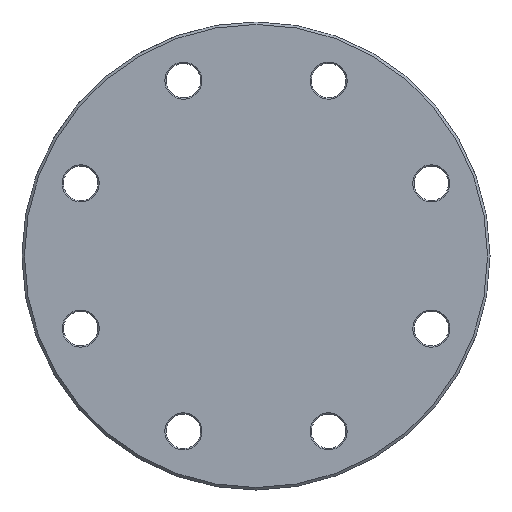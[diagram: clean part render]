
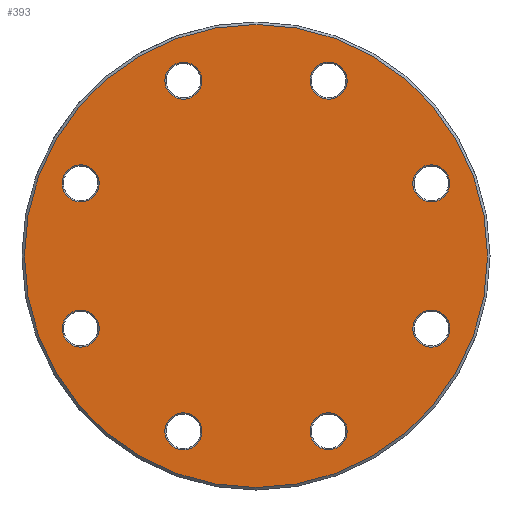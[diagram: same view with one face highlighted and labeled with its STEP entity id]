
A CAD part, left-side view. The second image highlights one B-rep face of the part: STEP entity #393.
In plain terms, the highlighted planar face has unit normal (-1, 0, 0).
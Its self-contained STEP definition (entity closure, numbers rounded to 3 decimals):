
#274=CARTESIAN_POINT('',(-17.5,56.25,0.));
#275=VERTEX_POINT('',#274);
#276=CARTESIAN_POINT('',(-17.5,0.0,0.0));
#277=DIRECTION('',(1.0,0.0,0.0));
#278=DIRECTION('',(0.0,-1.0,0.0));
#279=AXIS2_PLACEMENT_3D('',#276,#277,#278);
#280=CIRCLE('',#279,56.25);
#281=EDGE_CURVE('',#275,#275,#280,.T.);
#297=CARTESIAN_POINT('',(-17.5,28.425,0.0));
#298=DIRECTION('',(-1.0,0.0,0.0));
#299=DIRECTION('',(0.0,0.0,1.0));
#300=AXIS2_PLACEMENT_3D('',#297,#298,#299);
#301=PLANE('',#300);
#302=ORIENTED_EDGE('',*,*,#281,.F.);
#303=EDGE_LOOP('',(#302));
#304=FACE_OUTER_BOUND('',#303,.T.);
#305=CARTESIAN_POINT('',(-17.5,20.824,-39.409));
#306=VERTEX_POINT('',#305);
#307=CARTESIAN_POINT('',(-17.5,17.642,-42.591));
#308=DIRECTION('',(-1.0,0.0,0.0));
#309=DIRECTION('',(0.0,-0.707,-0.707));
#310=AXIS2_PLACEMENT_3D('',#307,#308,#309);
#311=CIRCLE('',#310,4.5);
#312=EDGE_CURVE('',#306,#306,#311,.T.);
#313=ORIENTED_EDGE('',*,*,#312,.F.);
#314=EDGE_LOOP('',(#313));
#315=FACE_BOUND('',#314,.T.);
#316=CARTESIAN_POINT('',(-17.5,-39.409,-20.824));
#317=VERTEX_POINT('',#316);
#318=CARTESIAN_POINT('',(-17.5,-42.591,-17.642));
#319=DIRECTION('',(-1.0,0.0,0.0));
#320=DIRECTION('',(0.0,-0.707,0.707));
#321=AXIS2_PLACEMENT_3D('',#318,#319,#320);
#322=CIRCLE('',#321,4.5);
#323=EDGE_CURVE('',#317,#317,#322,.T.);
#324=ORIENTED_EDGE('',*,*,#323,.F.);
#325=EDGE_LOOP('',(#324));
#326=FACE_BOUND('',#325,.T.);
#327=CARTESIAN_POINT('',(-17.5,-20.824,39.409));
#328=VERTEX_POINT('',#327);
#329=CARTESIAN_POINT('',(-17.5,-17.642,42.591));
#330=DIRECTION('',(-1.0,0.0,0.0));
#331=DIRECTION('',(0.0,0.707,0.707));
#332=AXIS2_PLACEMENT_3D('',#329,#330,#331);
#333=CIRCLE('',#332,4.5);
#334=EDGE_CURVE('',#328,#328,#333,.T.);
#335=ORIENTED_EDGE('',*,*,#334,.F.);
#336=EDGE_LOOP('',(#335));
#337=FACE_BOUND('',#336,.T.);
#338=CARTESIAN_POINT('',(-17.5,39.409,20.824));
#339=VERTEX_POINT('',#338);
#340=CARTESIAN_POINT('',(-17.5,42.591,17.642));
#341=DIRECTION('',(-1.0,0.0,0.0));
#342=DIRECTION('',(0.0,0.707,-0.707));
#343=AXIS2_PLACEMENT_3D('',#340,#341,#342);
#344=CIRCLE('',#343,4.5);
#345=EDGE_CURVE('',#339,#339,#344,.T.);
#346=ORIENTED_EDGE('',*,*,#345,.F.);
#347=EDGE_LOOP('',(#346));
#348=FACE_BOUND('',#347,.T.);
#349=CARTESIAN_POINT('',(-17.5,42.591,-13.142));
#350=VERTEX_POINT('',#349);
#351=CARTESIAN_POINT('',(-17.5,42.591,-17.642));
#352=DIRECTION('',(-1.0,0.0,0.0));
#353=DIRECTION('',(0.0,0.0,-1.0));
#354=AXIS2_PLACEMENT_3D('',#351,#352,#353);
#355=CIRCLE('',#354,4.5);
#356=EDGE_CURVE('',#350,#350,#355,.T.);
#357=ORIENTED_EDGE('',*,*,#356,.F.);
#358=EDGE_LOOP('',(#357));
#359=FACE_BOUND('',#358,.T.);
#360=CARTESIAN_POINT('',(-17.5,13.142,42.591));
#361=VERTEX_POINT('',#360);
#362=CARTESIAN_POINT('',(-17.5,17.642,42.591));
#363=DIRECTION('',(-1.0,0.0,0.0));
#364=DIRECTION('',(0.0,1.0,0.0));
#365=AXIS2_PLACEMENT_3D('',#362,#363,#364);
#366=CIRCLE('',#365,4.5);
#367=EDGE_CURVE('',#361,#361,#366,.T.);
#368=ORIENTED_EDGE('',*,*,#367,.F.);
#369=EDGE_LOOP('',(#368));
#370=FACE_BOUND('',#369,.T.);
#371=CARTESIAN_POINT('',(-17.5,-42.591,13.142));
#372=VERTEX_POINT('',#371);
#373=CARTESIAN_POINT('',(-17.5,-42.591,17.642));
#374=DIRECTION('',(-1.0,0.0,0.0));
#375=DIRECTION('',(0.0,0.0,1.0));
#376=AXIS2_PLACEMENT_3D('',#373,#374,#375);
#377=CIRCLE('',#376,4.5);
#378=EDGE_CURVE('',#372,#372,#377,.T.);
#379=ORIENTED_EDGE('',*,*,#378,.F.);
#380=EDGE_LOOP('',(#379));
#381=FACE_BOUND('',#380,.T.);
#382=CARTESIAN_POINT('',(-17.5,-13.142,-42.591));
#383=VERTEX_POINT('',#382);
#384=CARTESIAN_POINT('',(-17.5,-17.642,-42.591));
#385=DIRECTION('',(-1.0,0.0,0.0));
#386=DIRECTION('',(0.0,-1.0,0.0));
#387=AXIS2_PLACEMENT_3D('',#384,#385,#386);
#388=CIRCLE('',#387,4.5);
#389=EDGE_CURVE('',#383,#383,#388,.T.);
#390=ORIENTED_EDGE('',*,*,#389,.F.);
#391=EDGE_LOOP('',(#390));
#392=FACE_BOUND('',#391,.T.);
#393=ADVANCED_FACE('',(#304,#315,#326,#337,#348,#359,#370,#381,#392),#301,.T.);
